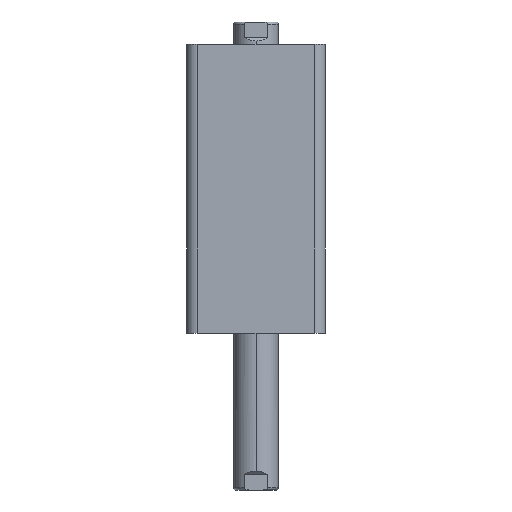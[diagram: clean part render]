
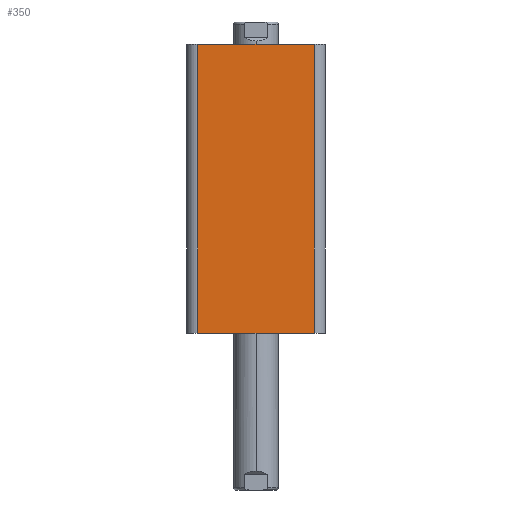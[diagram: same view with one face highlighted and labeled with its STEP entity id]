
A CAD part, left-side view. The second image highlights one B-rep face of the part: STEP entity #350.
In plain terms, the highlighted planar face has unit normal (-1, 0, 0).
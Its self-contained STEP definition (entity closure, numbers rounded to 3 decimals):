
#35 = ORIENTED_EDGE ( 'NONE', *, *, #2587, .T. ) ;
#36 = ORIENTED_EDGE ( 'NONE', *, *, #2588, .T. ) ;
#37 = ORIENTED_EDGE ( 'NONE', *, *, #2589, .F. ) ;
#38 = ORIENTED_EDGE ( 'NONE', *, *, #2590, .T. ) ;
#303 = EDGE_LOOP ( 'NONE', ( #35, #36, #37, #38 ) ) ;
#350 = ADVANCED_FACE ( 'NONE', ( #2786 ), #1637, .F. ) ;
#727 = CARTESIAN_POINT ( 'NONE',  ( -31., -26., 129. ) ) ;
#738 = CARTESIAN_POINT ( 'NONE',  ( -31., 31., 0. ) ) ;
#739 = DIRECTION ( 'NONE',  ( 0., -1., 0. ) ) ;
#740 = DIRECTION ( 'NONE',  ( 0., 0., 1. ) ) ;
#741 = CARTESIAN_POINT ( 'NONE',  ( -31., 31., 129. ) ) ;
#742 = DIRECTION ( 'NONE',  ( 0., -1., 0. ) ) ;
#743 = CARTESIAN_POINT ( 'NONE',  ( -31., 26., 129. ) ) ;
#744 = DIRECTION ( 'NONE',  ( 0., 0., -1. ) ) ;
#848 = CARTESIAN_POINT ( 'NONE',  ( -31., -26., 129. ) ) ;
#863 = CARTESIAN_POINT ( 'NONE',  ( -31., 26., 129. ) ) ;
#865 = CARTESIAN_POINT ( 'NONE',  ( -31., -26., 0. ) ) ;
#866 = CARTESIAN_POINT ( 'NONE',  ( -31., 26., 0. ) ) ;
#996 = AXIS2_PLACEMENT_3D ( 'NONE', #1635, #1640, #1641 ) ;
#1380 = LINE ( 'NONE', #727, #1389 ) ;
#1384 = LINE ( 'NONE', #738, #1387 ) ;
#1387 = VECTOR ( 'NONE', #739, 1000. ) ;
#1388 = LINE ( 'NONE', #741, #1391 ) ;
#1389 = VECTOR ( 'NONE', #740, 1000. ) ;
#1390 = LINE ( 'NONE', #743, #1393 ) ;
#1391 = VECTOR ( 'NONE', #742, 1000. ) ;
#1393 = VECTOR ( 'NONE', #744, 1000. ) ;
#1635 = CARTESIAN_POINT ( 'NONE',  ( -31., 31., 129. ) ) ;
#1637 = PLANE ( 'NONE',  #996 ) ;
#1640 = DIRECTION ( 'NONE',  ( 1., 0., 0. ) ) ;
#1641 = DIRECTION ( 'NONE',  ( 0., 1., 0. ) ) ;
#2587 = EDGE_CURVE ( 'NONE', #2687, #2686, #1384, .T. ) ;
#2588 = EDGE_CURVE ( 'NONE', #2686, #2681, #1380, .T. ) ;
#2589 = EDGE_CURVE ( 'NONE', #2682, #2681, #1388, .T. ) ;
#2590 = EDGE_CURVE ( 'NONE', #2682, #2687, #1390, .T. ) ;
#2681 = VERTEX_POINT ( 'NONE', #848 ) ;
#2682 = VERTEX_POINT ( 'NONE', #863 ) ;
#2686 = VERTEX_POINT ( 'NONE', #865 ) ;
#2687 = VERTEX_POINT ( 'NONE', #866 ) ;
#2786 = FACE_OUTER_BOUND ( 'NONE', #303, .T. ) ;
